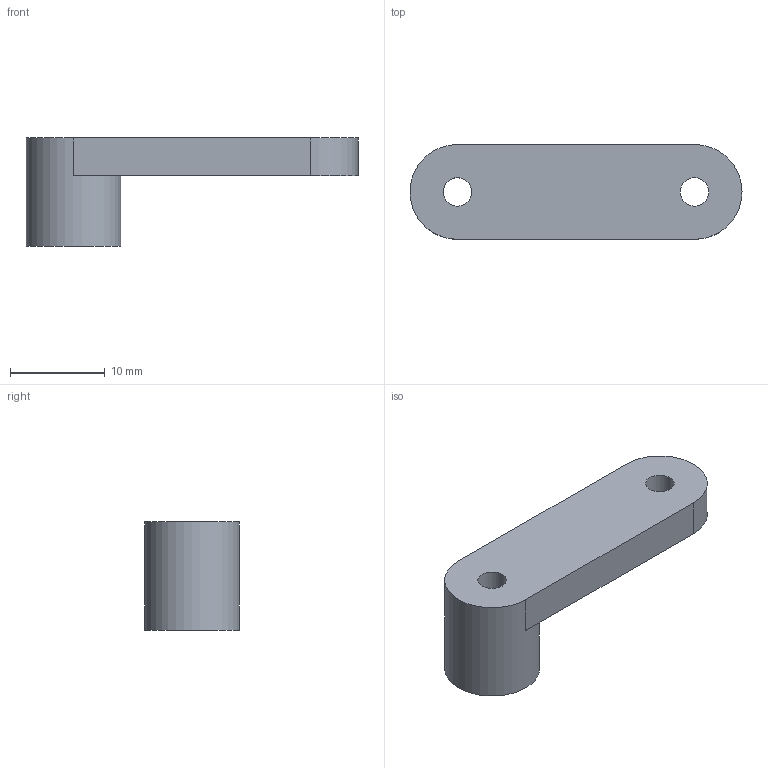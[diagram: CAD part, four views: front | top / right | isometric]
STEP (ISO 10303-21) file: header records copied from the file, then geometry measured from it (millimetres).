
FILE_DESCRIPTION(/* description */ ('STEP AP242 Edition 2','CAx-IF Rec.Pracs.---Representation and Presentation of Product Manufacturing Information (PMI)---4.0---2014-10-13','CAx-IF Rec.Pracs.---3D Tessellated Geometry---0.4---2014-09-14','2;1','CAx-IF Rec.Pracs.---User Defined Attributes---1.5---2016-08-15'),/* implementation_level */ '2;1');
FILE_NAME(/* name */ '695aff02d13f1a023388947f',/* time_stamp */ '2026-01-05T00:00:02Z',/* author */ (''),/* organization */ (''),/* preprocessor_version */ 'ST-DEVELOPER v20',/* originating_system */ 'ONSHAPE BY PTC INC, 1.208',/* authorisation */ ' ');
FILE_SCHEMA (('AP242_MANAGED_MODEL_BASED_3D_ENGINEERING_MIM_LF { 1 0 10303 442 3 1 4 }'));
Length unit declared in the file: metre
Products named in the file (1): Part 1
Bounding box: 35 x 10 x 11.4 mm (x, y, z)
Volume: 1786.5 mm3; surface area: 1332.1 mm2
Topology: 1 solids, 1 shells, 9 faces, 21 edges, 14 vertices
Faces by surface type: plane 5, cylinder 4
Full cylindrical faces by diameter (mm): 3 x2, 10 x1
Entity records: 270 total; most frequent: DIRECTION 46, CARTESIAN_POINT 40, ORIENTED_EDGE 34, AXIS2_PLACEMENT_3D 19, EDGE_CURVE 17, EDGE_LOOP 16, FACE_BOUND 16, VERTEX_POINT 13
